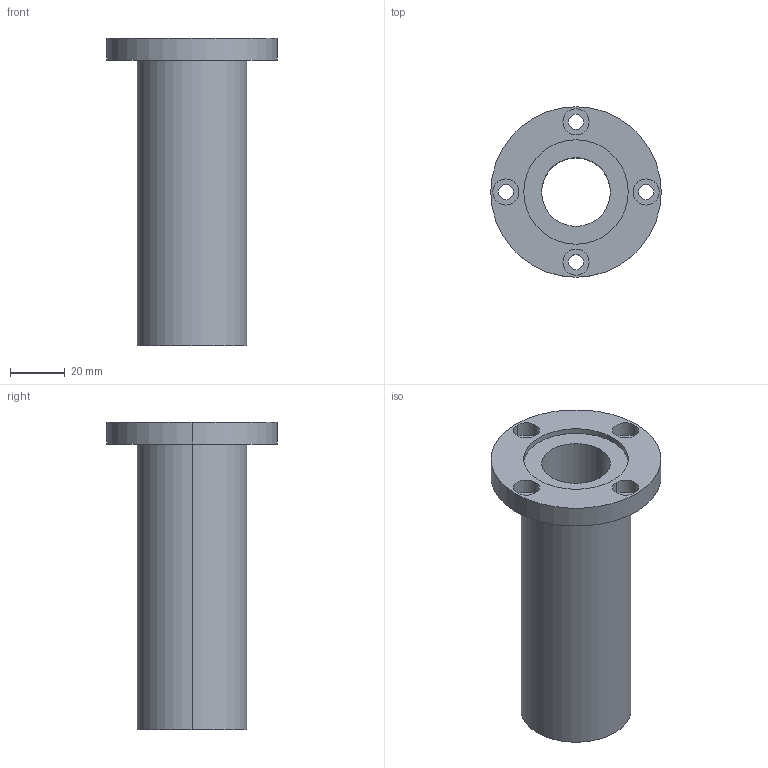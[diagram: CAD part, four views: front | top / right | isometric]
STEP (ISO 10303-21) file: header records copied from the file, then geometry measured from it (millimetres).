
FILE_DESCRIPTION((''),'2;1');
FILE_NAME('C:\Documents and Settings\ｿﾀﾀ蠑ｷ1\ｹﾙﾅﾁ ﾈｭｸ饅\ｺﾎﾇｰﾆﾄﾀﾏ\ﾁｦﾇｰ\LMEF__LUU\LMEF25LUU.stp','2005-06-15T10:54:09',('ｿﾀﾀ蠑ｷ1'),(''),'Autodesk Inventor 9','Autodesk Inventor 9','');
FILE_SCHEMA(('AUTOMOTIVE_DESIGN { 1 0 10303 214 1 1 1 1 }'));
Length unit declared in the file: millimetre
Products named in the file (1): LMEF__(L)
Bounding box: 62 x 62 x 112 mm (x, y, z)
Volume: 95514 mm3; surface area: 29277.6 mm2
Topology: 1 solids, 1 shells, 35 faces, 78 edges, 52 vertices
Faces by surface type: bspline 20, cylinder 10, plane 5
Entity records: 1255 total; most frequent: CARTESIAN_POINT 450, DIRECTION 162, ORIENTED_EDGE 156, EDGE_CURVE 78, AXIS2_PLACEMENT_3D 68, VERTEX_POINT 52, CIRCLE 52, EDGE_LOOP 52
